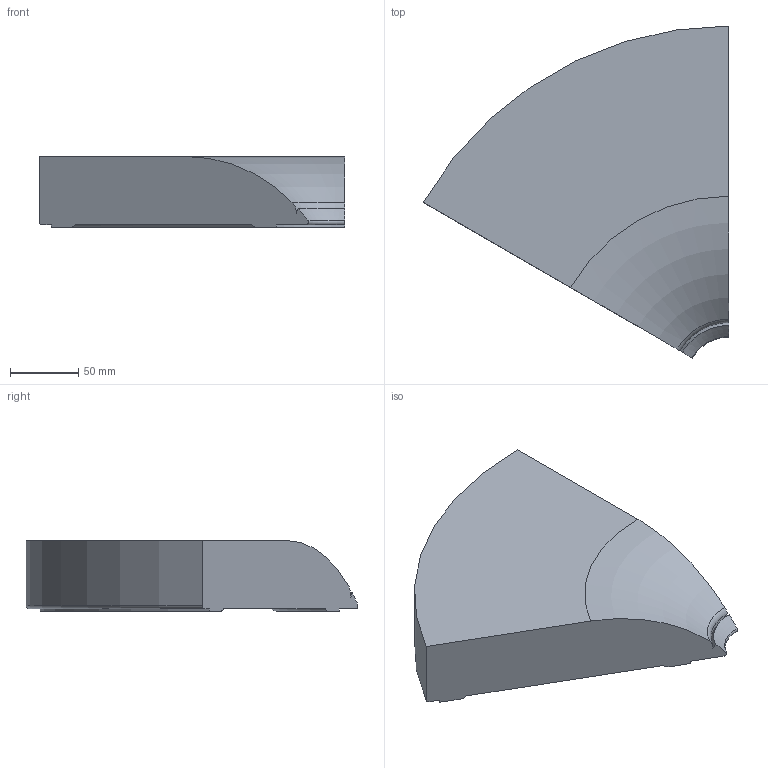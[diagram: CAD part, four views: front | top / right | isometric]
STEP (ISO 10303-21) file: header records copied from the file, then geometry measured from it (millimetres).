
FILE_DESCRIPTION(/* description */ ('Unknown'),/* implementation_level */ '2;1');
FILE_NAME(/* name */ '3D_Footsie-Slim_Corner60deg',/* time_stamp */ '2024-01-11T10:05:58+01:00',/* author */ ('Unknown'),/* organization */ ('Unknown'),/* preprocessor_version */ 'ST-DEVELOPER v18.104',/* originating_system */ 'Solid Edge',/* authorisation */ 'Unknown');
FILE_SCHEMA (('AUTOMOTIVE_DESIGN {1 0 10303 214 3 1 1}'));
Length unit declared in the file: millimetre
Products named in the file (1): 3D_Footsie-Slim_Corner60deg
Bounding box: 224.14 x 243.46 x 52 mm (x, y, z)
Volume: 1653827.1 mm3; surface area: 104349.5 mm2
Topology: 1 solids, 1 shells, 20 faces, 54 edges, 36 vertices
Faces by surface type: plane 8, torus 7, cylinder 3, cone 2
Entity records: 680 total; most frequent: DIRECTION 128, CARTESIAN_POINT 111, ORIENTED_EDGE 108, EDGE_CURVE 54, AXIS2_PLACEMENT_3D 53, VERTEX_POINT 36, CIRCLE 32, LINE 22
